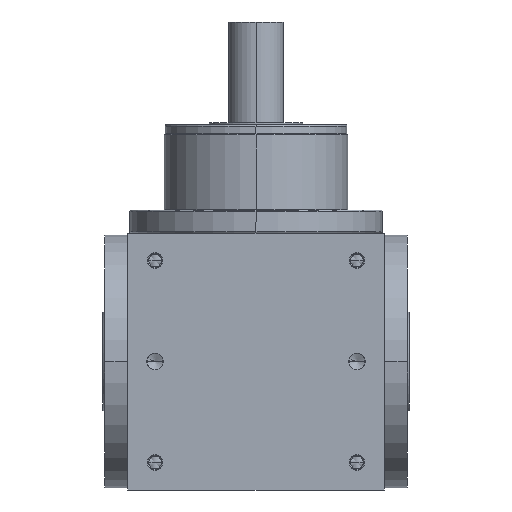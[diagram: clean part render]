
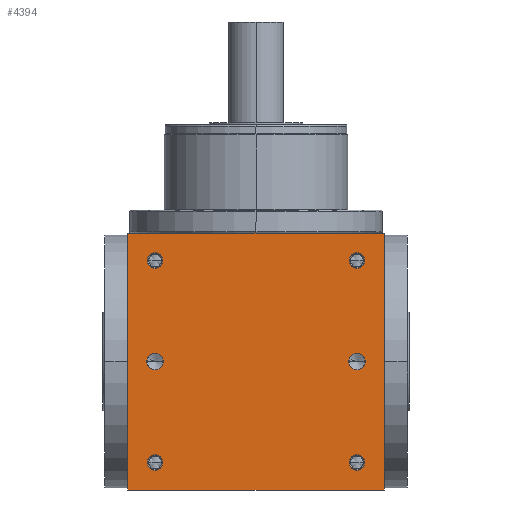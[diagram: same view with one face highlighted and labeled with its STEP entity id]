
A CAD part, front view. The second image highlights one B-rep face of the part: STEP entity #4394.
In plain terms, the highlighted planar face has unit normal (0, -1, 0).
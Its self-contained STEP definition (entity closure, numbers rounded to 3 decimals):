
#5=DIRECTION('',(1.,0.,0.));
#6=VECTOR('',#5,280.);
#7=CARTESIAN_POINT('',(-140.,-140.,-140.));
#8=LINE('',#7,#6);
#155=DIRECTION('',(0.,0.,1.));
#156=VECTOR('',#155,280.);
#157=CARTESIAN_POINT('',(140.,-140.,-140.));
#158=LINE('',#157,#156);
#209=DIRECTION('',(0.,0.,1.));
#210=VECTOR('',#209,280.);
#211=CARTESIAN_POINT('',(-140.,-140.,-140.));
#212=LINE('',#211,#210);
#213=CARTESIAN_POINT('',(110.,-140.,110.));
#214=DIRECTION('',(0.,1.,0.));
#215=DIRECTION('',(-1.,0.,0.));
#216=AXIS2_PLACEMENT_3D('',#213,#214,#215);
#218=CARTESIAN_POINT('',(110.,-140.,110.));
#219=DIRECTION('',(0.,1.,0.));
#220=DIRECTION('',(1.,0.,0.));
#221=AXIS2_PLACEMENT_3D('',#218,#219,#220);
#223=CARTESIAN_POINT('',(-110.,-140.,110.));
#224=DIRECTION('',(0.,1.,0.));
#225=DIRECTION('',(-1.,0.,0.));
#226=AXIS2_PLACEMENT_3D('',#223,#224,#225);
#228=CARTESIAN_POINT('',(-110.,-140.,110.));
#229=DIRECTION('',(0.,1.,0.));
#230=DIRECTION('',(1.,0.,0.));
#231=AXIS2_PLACEMENT_3D('',#228,#229,#230);
#233=CARTESIAN_POINT('',(110.,-140.,-110.));
#234=DIRECTION('',(0.,1.,0.));
#235=DIRECTION('',(-1.,0.,0.));
#236=AXIS2_PLACEMENT_3D('',#233,#234,#235);
#238=CARTESIAN_POINT('',(110.,-140.,-110.));
#239=DIRECTION('',(0.,1.,0.));
#240=DIRECTION('',(1.,0.,0.));
#241=AXIS2_PLACEMENT_3D('',#238,#239,#240);
#243=CARTESIAN_POINT('',(-110.,-140.,-110.));
#244=DIRECTION('',(0.,1.,0.));
#245=DIRECTION('',(-1.,0.,0.));
#246=AXIS2_PLACEMENT_3D('',#243,#244,#245);
#248=CARTESIAN_POINT('',(-110.,-140.,-110.));
#249=DIRECTION('',(0.,1.,0.));
#250=DIRECTION('',(1.,0.,0.));
#251=AXIS2_PLACEMENT_3D('',#248,#249,#250);
#253=CARTESIAN_POINT('',(-110.,-140.,0.));
#254=DIRECTION('',(0.,1.,0.));
#255=DIRECTION('',(1.,0.,0.));
#256=AXIS2_PLACEMENT_3D('',#253,#254,#255);
#258=CARTESIAN_POINT('',(-110.,-140.,0.));
#259=DIRECTION('',(0.,1.,0.));
#260=DIRECTION('',(-1.,0.,0.));
#261=AXIS2_PLACEMENT_3D('',#258,#259,#260);
#263=CARTESIAN_POINT('',(110.,-140.,0.));
#264=DIRECTION('',(0.,1.,0.));
#265=DIRECTION('',(1.,0.,0.));
#266=AXIS2_PLACEMENT_3D('',#263,#264,#265);
#268=CARTESIAN_POINT('',(110.,-140.,0.));
#269=DIRECTION('',(0.,1.,0.));
#270=DIRECTION('',(-1.,0.,0.));
#271=AXIS2_PLACEMENT_3D('',#268,#269,#270);
#285=DIRECTION('',(1.,0.,0.));
#286=VECTOR('',#285,280.);
#287=CARTESIAN_POINT('',(-140.,-140.,140.));
#288=LINE('',#287,#286);
#3520=CARTESIAN_POINT('',(-140.,-140.,-140.));
#3522=VERTEX_POINT('',#3520);
#3523=CARTESIAN_POINT('',(140.,-140.,-140.));
#3524=VERTEX_POINT('',#3523);
#3528=CARTESIAN_POINT('',(-140.,-140.,140.));
#3530=VERTEX_POINT('',#3528);
#3531=CARTESIAN_POINT('',(140.,-140.,140.));
#3532=VERTEX_POINT('',#3531);
#3687=CARTESIAN_POINT('',(101.6,-140.,110.));
#3688=CARTESIAN_POINT('',(118.4,-140.,110.));
#3689=VERTEX_POINT('',#3687);
#3690=VERTEX_POINT('',#3688);
#3695=CARTESIAN_POINT('',(-118.4,-140.,110.));
#3696=CARTESIAN_POINT('',(-101.6,-140.,110.));
#3697=VERTEX_POINT('',#3695);
#3698=VERTEX_POINT('',#3696);
#3703=CARTESIAN_POINT('',(101.6,-140.,-110.));
#3704=CARTESIAN_POINT('',(118.4,-140.,-110.));
#3705=VERTEX_POINT('',#3703);
#3706=VERTEX_POINT('',#3704);
#3711=CARTESIAN_POINT('',(-118.4,-140.,-110.));
#3712=CARTESIAN_POINT('',(-101.6,-140.,-110.));
#3713=VERTEX_POINT('',#3711);
#3714=VERTEX_POINT('',#3712);
#4035=CARTESIAN_POINT('',(-100.95,-140.,0.));
#4036=CARTESIAN_POINT('',(-119.05,-140.,0.));
#4037=VERTEX_POINT('',#4035);
#4038=VERTEX_POINT('',#4036);
#4043=CARTESIAN_POINT('',(119.05,-140.,0.));
#4044=CARTESIAN_POINT('',(100.95,-140.,0.));
#4045=VERTEX_POINT('',#4043);
#4046=VERTEX_POINT('',#4044);
#4346=CARTESIAN_POINT('',(-140.,-140.,-140.));
#4347=DIRECTION('',(0.,-1.,0.));
#4348=DIRECTION('',(1.,0.,0.));
#4349=AXIS2_PLACEMENT_3D('',#4346,#4347,#4348);
#4350=PLANE('',#4349);
#4351=ORIENTED_EDGE('',*,*,#4186,.F.);
#4352=ORIENTED_EDGE('',*,*,#4229,.T.);
#4354=ORIENTED_EDGE('',*,*,#4353,.T.);
#4355=ORIENTED_EDGE('',*,*,#4308,.F.);
#4356=EDGE_LOOP('',(#4351,#4352,#4354,#4355));
#4357=FACE_OUTER_BOUND('',#4356,.F.);
#4359=ORIENTED_EDGE('',*,*,#4358,.F.);
#4361=ORIENTED_EDGE('',*,*,#4360,.F.);
#4362=EDGE_LOOP('',(#4359,#4361));
#4363=FACE_BOUND('',#4362,.F.);
#4365=ORIENTED_EDGE('',*,*,#4364,.F.);
#4367=ORIENTED_EDGE('',*,*,#4366,.F.);
#4368=EDGE_LOOP('',(#4365,#4367));
#4369=FACE_BOUND('',#4368,.F.);
#4371=ORIENTED_EDGE('',*,*,#4370,.F.);
#4373=ORIENTED_EDGE('',*,*,#4372,.F.);
#4374=EDGE_LOOP('',(#4371,#4373));
#4375=FACE_BOUND('',#4374,.F.);
#4377=ORIENTED_EDGE('',*,*,#4376,.F.);
#4379=ORIENTED_EDGE('',*,*,#4378,.F.);
#4380=EDGE_LOOP('',(#4377,#4379));
#4381=FACE_BOUND('',#4380,.F.);
#4383=ORIENTED_EDGE('',*,*,#4382,.F.);
#4385=ORIENTED_EDGE('',*,*,#4384,.F.);
#4386=EDGE_LOOP('',(#4383,#4385));
#4387=FACE_BOUND('',#4386,.F.);
#4389=ORIENTED_EDGE('',*,*,#4388,.F.);
#4391=ORIENTED_EDGE('',*,*,#4390,.F.);
#4392=EDGE_LOOP('',(#4389,#4391));
#4393=FACE_BOUND('',#4392,.F.);
#4394=ADVANCED_FACE('',(#4357,#4363,#4369,#4375,#4381,#4387,#4393),#4350,.T.);
#217=CIRCLE('',#216,8.4);
#222=CIRCLE('',#221,8.4);
#227=CIRCLE('',#226,8.4);
#232=CIRCLE('',#231,8.4);
#237=CIRCLE('',#236,8.4);
#242=CIRCLE('',#241,8.4);
#247=CIRCLE('',#246,8.4);
#252=CIRCLE('',#251,8.4);
#257=CIRCLE('',#256,9.05);
#262=CIRCLE('',#261,9.05);
#267=CIRCLE('',#266,9.05);
#272=CIRCLE('',#271,9.05);
#4186=EDGE_CURVE('',#3522,#3524,#8,.T.);
#4229=EDGE_CURVE('',#3522,#3530,#212,.T.);
#4308=EDGE_CURVE('',#3524,#3532,#158,.T.);
#4353=EDGE_CURVE('',#3530,#3532,#288,.T.);
#4358=EDGE_CURVE('',#3689,#3690,#217,.T.);
#4360=EDGE_CURVE('',#3690,#3689,#222,.T.);
#4364=EDGE_CURVE('',#3697,#3698,#227,.T.);
#4366=EDGE_CURVE('',#3698,#3697,#232,.T.);
#4370=EDGE_CURVE('',#3705,#3706,#237,.T.);
#4372=EDGE_CURVE('',#3706,#3705,#242,.T.);
#4376=EDGE_CURVE('',#3713,#3714,#247,.T.);
#4378=EDGE_CURVE('',#3714,#3713,#252,.T.);
#4382=EDGE_CURVE('',#4037,#4038,#257,.T.);
#4384=EDGE_CURVE('',#4038,#4037,#262,.T.);
#4388=EDGE_CURVE('',#4045,#4046,#267,.T.);
#4390=EDGE_CURVE('',#4046,#4045,#272,.T.);
